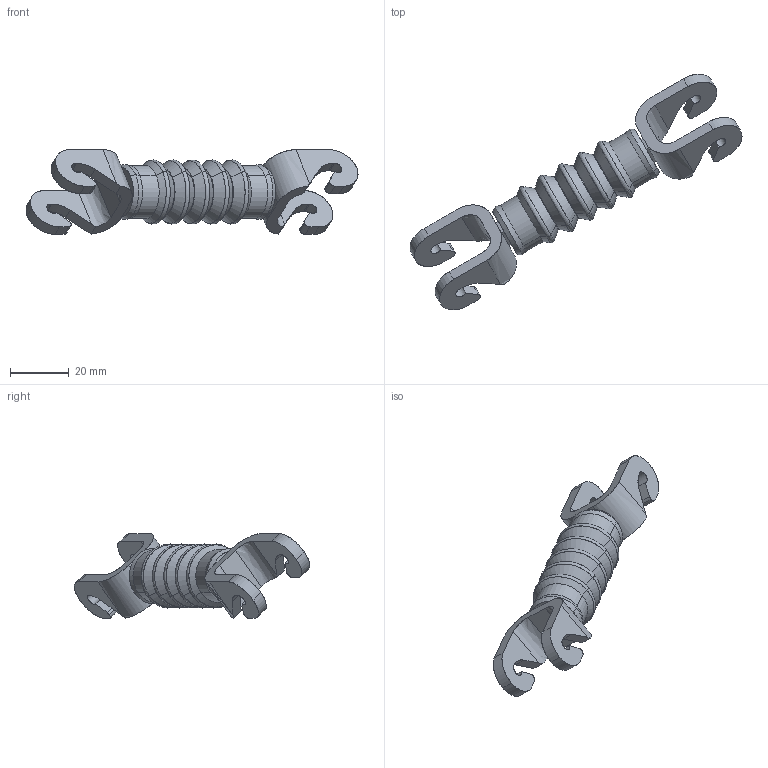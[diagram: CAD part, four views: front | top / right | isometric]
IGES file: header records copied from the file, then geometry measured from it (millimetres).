
Start section: SolidWorks IGES file using analytic representation for surfaces
Global section: file name: C:\Users\SELUHAA\Desktop\Work items\545792\IGES\IRB360_X-1130-WDS-4D_rev03_IGES_J\IRB360_X-1130-WDS-4D_rev03_LA3_CU_CAD.IGS; native system: SolidWorks 2022; preprocessor: SolidWorks 2022; author: SELUHAA; date: 231204.111225; units: millimetre
Bounding box: 113.16 x 80.31 x 28.82 mm (x, y, z)
Surface area: 10290.8 mm2 (no closed solid volume)
Topology: 0 solids, 0 shells, 134 faces, 1216 edges, 1216 vertices
Faces by surface type: bspline 68, revolution 66
